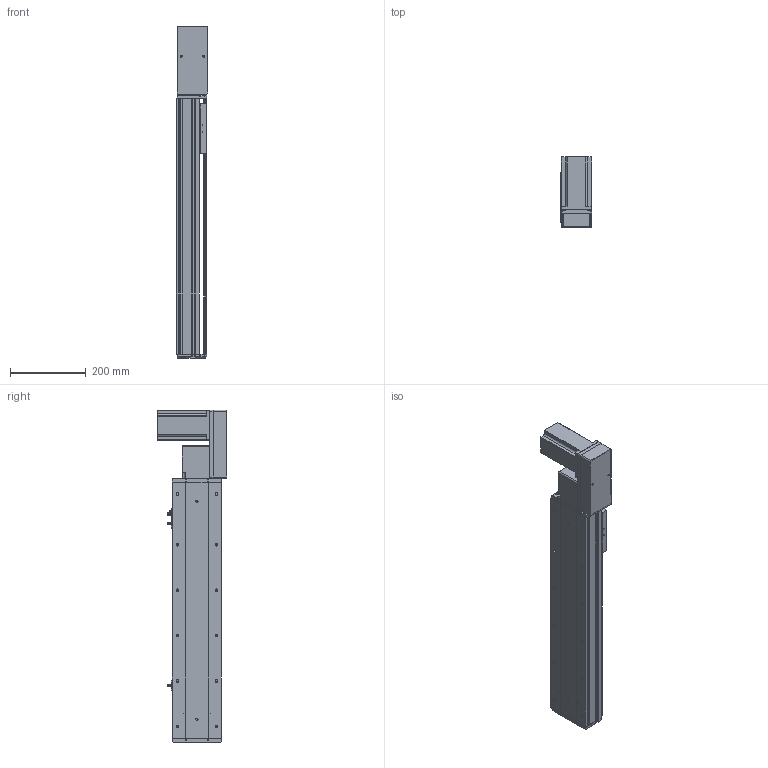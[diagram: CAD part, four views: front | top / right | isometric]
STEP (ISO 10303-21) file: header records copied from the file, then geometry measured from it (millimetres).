
FILE_DESCRIPTION (( 'STEP AP214' ), '1' );
FILE_NAME ('KSD130B-S450-MLB-CM .STEP', '2019-11-14T02:00:28', ( '微软用户' ), ( '微软中国' ), 'SwSTEP 2.0', 'SolidWorks 2014', '' );
FILE_SCHEMA (( 'AUTOMOTIVE_DESIGN' ));
Length unit declared in the file: millimetre
Products named in the file (12): 130宽同步带安装座半封闭; 130宽端盖同步带半封闭; 130宽底板半封闭同步带-450行程; KSD130B-S450-MLB-CM ; 台达ECMA－C20807AS伺服电机; 130宽模组保护罩上下左右折-同步带; 130宽模组马达安装板连板左右折同步带; 覜茼え100遵圉猾敕; U倰嫖萇EEㄜSX672; 130宽盖板半封闭同步带-450行程; 130宽马达安装板同步带左-改; 130宽马达安装板同步带半封闭
Assembly tree (13 placements, depth 2):
  KSD130B-S450-MLB-CM 
    130宽底板半封闭同步带-450行程
    130宽端盖同步带半封闭
    130宽同步带安装座半封闭
    130宽马达安装板同步带半封闭
    130宽马达安装板同步带左-改
    130宽盖板半封闭同步带-450行程
    U倰嫖萇EEㄜSX672  x3
    覜茼え100遵圉猾敕
    130宽模组马达安装板连板左右折同步带
    130宽模组保护罩上下左右折-同步带
    台达ECMA－C20807AS伺服电机
Bounding box: 82.5 x 184.8 x 877 mm (x, y, z)
Volume: 3504982.3 mm3; surface area: 906430.9 mm2
Topology: 14 solids, 14 shells, 1397 faces, 3921 edges, 2521 vertices
Faces by surface type: cylinder 652, plane 606, cone 139
Entity records: 44499 total; most frequent: CARTESIAN_POINT 7926, DIRECTION 6835, ORIENTED_EDGE 6550, EDGE_CURVE 3275, AXIS2_PLACEMENT_3D 2470, VERTEX_POINT 2145, LINE 1895, VECTOR 1895
